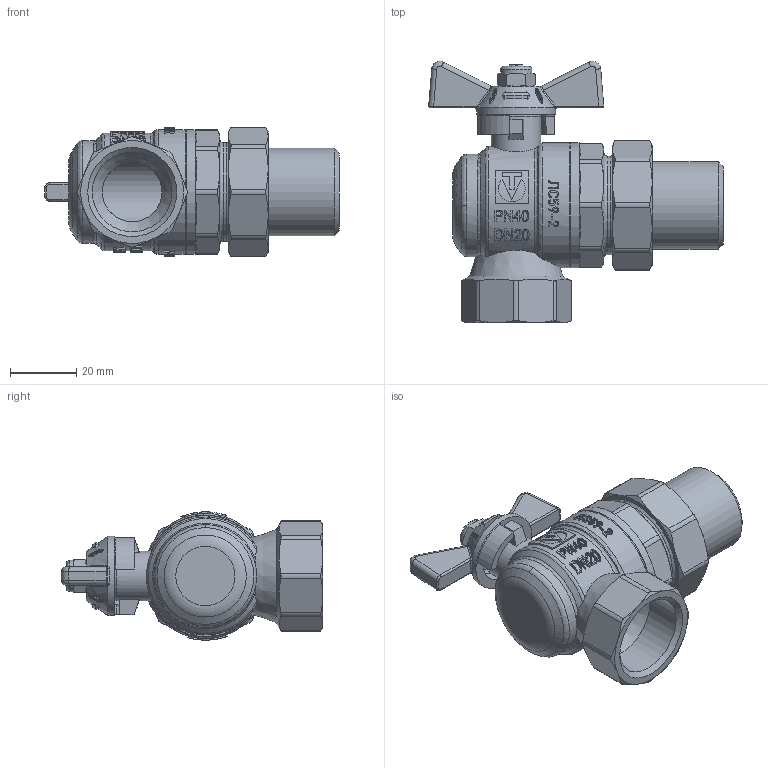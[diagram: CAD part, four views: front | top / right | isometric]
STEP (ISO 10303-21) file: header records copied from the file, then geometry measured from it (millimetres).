
FILE_DESCRIPTION(('STEP AP203'), '1');
FILE_NAME('VT.228S.N.05', '', ('UNSPECIFIED'), ('UNSPECIFIED'), 'C3D Converter', 'C3D Toolkit', '');
FILE_SCHEMA(('CONFIG_CONTROL_DESIGN'));
Length unit declared in the file: millimetre
Products named in the file (1): ВР.491816.019.000 СБ
Bounding box: 89.08 x 79.08 x 39.18 mm (x, y, z)
Volume: 56221.7 mm3; surface area: 24615.3 mm2
Topology: 1 solids, 1 shells, 1910 faces, 5416 edges, 3569 vertices
Faces by surface type: plane 1478, extrusion 179, cylinder 126, cone 77, bspline 28, torus 22
Full cylindrical faces by diameter (mm): 6 x1, 8 x1, 9.5 x1, 10.5 x1, 12 x1, 15 x1, 18 x1, 20 x2, 23.09 x1, 24 x1, 24.118 x1, 26.441 x1, 27 x1, 29.8 x1, 31 x1, 37.8 x2
Entity records: 71472 total; most frequent: CARTESIAN_POINT 29768, ORIENTED_EDGE 10692, DIRECTION 6480, EDGE_CURVE 5346, VERTEX_POINT 3559, VECTOR 2220, AXIS2_PLACEMENT_3D 2130, LINE 2041
